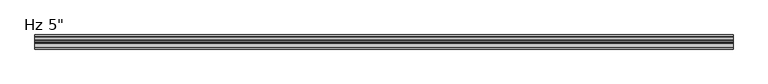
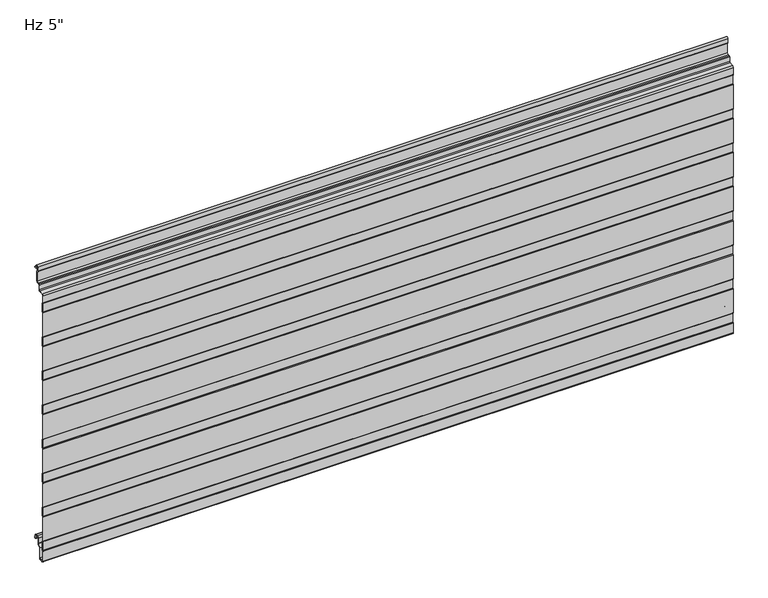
"""IFC4 building model written with IfcOpenShell, lengths in millimetres: plate geometry."""

from ifc_helpers import new_model, si_unit, point, frame, frame_2d, origin, place, context, project, spatial, polyline, circle_curve, trimmed, segment, composite_curve, outline, extrude, source, transform, mapped, element, save


def plate_4f22e56c(model_context):
    return source(origin(), model_context, "Body", "SweptSolid", [
        extrude(outline(composite_curve([segment(trimmed(circle_curve(frame_2d((-125.5998717, -10.6415934)), 1.3998661), [point((-126.9997378, -10.6415934))], [point((-126.5324955, -9.5976403))], False, "CARTESIAN"), True, "CONTINUOUS"), segment(polyline([(-126.5324955, -9.5976403), (-125.7997693, -8.8649141), (-125.7997693, 10.0260713), (-126.5327349, 10.7590369)]), True, "CONTINUOUS"), segment(trimmed(circle_curve(frame_2d((-125.6000237, 11.8030877)), 1.3999972), [point((-126.5327349, 10.7590369))], [point((-127.0, 11.810741))], False, "CARTESIAN"), True, "CONTINUOUS"), segment(polyline([(-127.0, 11.810741), (-127.0, 65.5582542)]), True, "CONTINUOUS"), segment(trimmed(circle_curve(frame_2d((-125.6000028, 65.5582542)), 1.3999972), [point((-127.0, 65.5582542))], [point((-126.532714, 66.602305))], False, "CARTESIAN"), True, "CONTINUOUS"), segment(polyline([(-126.532714, 66.602305), (-125.7997693, 67.3352497), (-125.7997693, 86.2259189), (-126.5327349, 86.9588845)]), True, "CONTINUOUS"), segment(trimmed(circle_curve(frame_2d((-125.6000237, 88.0029353)), 1.3999972), [point((-126.5327349, 86.9588845))], [point((-127.0, 88.0105886))], False, "CARTESIAN"), True, "CONTINUOUS"), segment(polyline([(-127.0, 88.0105886), (-127.0, 141.7581018)]), True, "CONTINUOUS"), segment(trimmed(circle_curve(frame_2d((-125.6000028, 141.7581018)), 1.3999972), [point((-127.0, 141.7581018))], [point((-126.532714, 142.8021526))], False, "CARTESIAN"), True, "CONTINUOUS"), segment(polyline([(-126.532714, 142.8021526), (-125.7997693, 143.5350973), (-125.7997693, 162.4257665), (-126.5327349, 163.1587321)]), True, "CONTINUOUS"), segment(trimmed(circle_curve(frame_2d((-125.6000237, 164.2027829)), 1.3999972), [point((-126.5327349, 163.1587321))], [point((-127.0, 164.2104362))], False, "CARTESIAN"), True, "CONTINUOUS"), segment(polyline([(-127.0, 164.2104362), (-127.0, 217.9579494)]), True, "CONTINUOUS"), segment(trimmed(circle_curve(frame_2d((-125.6000028, 217.9579494)), 1.3999972), [point((-127.0, 217.9579494))], [point((-126.532714, 219.0020002))], False, "CARTESIAN"), True, "CONTINUOUS"), segment(polyline([(-126.532714, 219.0020002), (-125.7997693, 219.7349449), (-125.7997693, 238.6256141), (-126.5327349, 239.3585797)]), True, "CONTINUOUS"), segment(trimmed(circle_curve(frame_2d((-125.6000237, 240.4026305)), 1.3999972), [point((-126.5327349, 239.3585797))], [point((-127.0, 240.4102838))], False, "CARTESIAN"), True, "CONTINUOUS"), segment(polyline([(-127.0, 240.4102838), (-127.0, 294.157797)]), True, "CONTINUOUS"), segment(trimmed(circle_curve(frame_2d((-125.6000028, 294.157797)), 1.3999972), [point((-127.0, 294.157797))], [point((-126.532714, 295.2018478))], False, "CARTESIAN"), True, "CONTINUOUS"), segment(polyline([(-126.532714, 295.2018478), (-125.7997693, 295.9347925), (-125.7997693, 314.8254617), (-126.5327349, 315.5584273)]), True, "CONTINUOUS"), segment(trimmed(circle_curve(frame_2d((-125.6000237, 316.6024781)), 1.3999972), [point((-126.5327349, 315.5584273))], [point((-127.0, 316.6101314))], False, "CARTESIAN"), True, "CONTINUOUS"), segment(polyline([(-127.0, 316.6101314), (-127.0, 370.3576446)]), True, "CONTINUOUS"), segment(trimmed(circle_curve(frame_2d((-125.6000028, 370.3576446)), 1.3999972), [point((-127.0, 370.3576446))], [point((-126.532714, 371.4016954))], False, "CARTESIAN"), True, "CONTINUOUS"), segment(polyline([(-126.532714, 371.4016954), (-125.7997693, 372.1346401), (-125.7997693, 391.0253093), (-126.5327349, 391.7582749)]), True, "CONTINUOUS"), segment(trimmed(circle_curve(frame_2d((-125.6000237, 392.8023257)), 1.3999972), [point((-126.5327349, 391.7582749))], [point((-127.0, 392.809979))], False, "CARTESIAN"), True, "CONTINUOUS"), segment(polyline([(-127.0, 392.809979), (-127.0, 446.5574922)]), True, "CONTINUOUS"), segment(trimmed(circle_curve(frame_2d((-125.6000028, 446.5574922)), 1.3999972), [point((-127.0, 446.5574922))], [point((-126.532714, 447.601543))], False, "CARTESIAN"), True, "CONTINUOUS"), segment(polyline([(-126.532714, 447.601543), (-125.7997693, 448.3344877), (-125.7997693, 467.2251569), (-126.5327349, 467.9581225)]), True, "CONTINUOUS"), segment(trimmed(circle_curve(frame_2d((-125.6000237, 469.0021733)), 1.3999972), [point((-126.5327349, 467.9581225))], [point((-127.0, 469.0098266))], False, "CARTESIAN"), True, "CONTINUOUS"), segment(polyline([(-127.0, 469.0098266), (-127.0, 522.7573398)]), True, "CONTINUOUS"), segment(trimmed(circle_curve(frame_2d((-125.6000028, 522.7573398)), 1.3999972), [point((-127.0, 522.7573398))], [point((-126.532714, 523.8013906))], False, "CARTESIAN"), True, "CONTINUOUS"), segment(polyline([(-126.532714, 523.8013906), (-125.7997693, 524.5343353), (-125.7997693, 543.4250045), (-126.5327349, 544.1579701)]), True, "CONTINUOUS"), segment(trimmed(circle_curve(frame_2d((-125.6000237, 545.2020209)), 1.3999972), [point((-126.5327349, 544.1579701))], [point((-126.9990984, 545.2528361))], False, "CARTESIAN"), True, "CONTINUOUS"), segment(polyline([(-126.9990984, 545.2528361), (-126.9990984, 561.1384359)]), True, "CONTINUOUS"), segment(trimmed(circle_curve(frame_2d((-124.0491043, 561.1384359)), 2.9499941), [point((-126.9990984, 561.1384359))], [point((-124.3062132, 564.0772044))], False, "CARTESIAN"), True, "CONTINUOUS"), segment(polyline([(-124.3062132, 564.0772044), (-115.8419168, 564.8177344)]), True, "CONTINUOUS"), segment(trimmed(circle_curve(frame_2d((-116.0188426, 566.8400056)), 2.0299959), [point((-115.8419168, 564.8177344))], [point((-113.9914567, 566.9429135))], True, "CARTESIAN"), True, "CONTINUOUS"), segment(polyline([(-113.9914567, 566.9429135), (-113.9914567, 577.0595941)]), True, "CONTINUOUS"), segment(trimmed(circle_curve(frame_2d((-112.0423033, 577.0595941)), 1.9491534), [point((-113.9914567, 577.0595941))], [point((-112.0423033, 579.0087475))], False, "CARTESIAN"), True, "CONTINUOUS"), segment(polyline([(-112.0423033, 579.0087475), (-108.9009036, 579.0087475)]), True, "CONTINUOUS"), segment(trimmed(circle_curve(frame_2d((-108.9009036, 582.0087415)), 2.999994), [point((-108.9009036, 579.0087475))], [point((-105.9009096, 582.0087415))], True, "CARTESIAN"), True, "CONTINUOUS"), segment(polyline([(-105.9009096, 582.0087415), (-105.9009096, 602.6122013), (-107.1467537, 603.3314897)]), True, "CONTINUOUS"), segment(trimmed(circle_curve(frame_2d((-106.4217552, 604.587224)), 1.4499971), [point((-107.1467537, 603.3314897))], [point((-107.8709833, 604.6344401))], False, "CARTESIAN"), True, "CONTINUOUS"), segment(polyline([(-107.8709833, 604.6344401), (-107.526075, 613.3463704)]), True, "CONTINUOUS"), segment(trimmed(circle_curve(frame_2d((-104.4266291, 613.2236622)), 3.1018739), [point((-107.526075, 613.3463704))], [point((-101.3275082, 613.3543204))], False, "CARTESIAN"), True, "CONTINUOUS"), segment(polyline([(-101.3275082, 613.3543204), (-101.0837214, 609.3587)]), True, "CONTINUOUS"), segment(trimmed(circle_curve(frame_2d((-100.2434917, 609.4099653)), 0.8417922), [point((-101.0837214, 609.3587))], [point((-100.2729389, 608.5686884))], True, "CARTESIAN"), True, "CONTINUOUS"), segment(polyline([(-100.2729389, 608.5686884), (-97.5025061, 608.5686884), (-97.5025061, 607.5686884), (-100.2870527, 607.5686884)]), True, "CONTINUOUS"), segment(trimmed(circle_curve(frame_2d((-100.2434917, 609.4099653)), 1.8417922), [point((-100.2870527, 607.5686884))], [point((-102.0818653, 609.2977997))], False, "CARTESIAN"), True, "CONTINUOUS"), segment(polyline([(-102.0818653, 609.2977997), (-102.3262802, 613.3037148)]), True, "CONTINUOUS"), segment(trimmed(circle_curve(frame_2d((-104.4266291, 613.2236622)), 2.1018739), [point((-102.3262802, 613.3037148))], [point((-106.5268578, 613.306811))], True, "CARTESIAN"), True, "CONTINUOUS"), segment(polyline([(-106.5268578, 613.306811), (-106.8821181, 604.3334028), (-104.9009096, 603.1895515), (-104.9009096, 582.0087415)]), True, "CONTINUOUS"), segment(trimmed(circle_curve(frame_2d((-108.9009036, 582.0087415)), 3.999994), [point((-104.9009096, 582.0087415))], [point((-108.9009036, 578.0087475))], False, "CARTESIAN"), True, "CONTINUOUS"), segment(polyline([(-108.9009036, 578.0087475), (-112.0423033, 578.0087475)]), True, "CONTINUOUS"), segment(trimmed(circle_curve(frame_2d((-112.0423033, 577.0595941)), 0.9491534), [point((-112.0423033, 578.0087475))], [point((-112.9914567, 577.0595941))], True, "CARTESIAN"), True, "CONTINUOUS"), segment(polyline([(-112.9914567, 577.0595941), (-112.9914567, 566.9657441)]), True, "CONTINUOUS"), segment(trimmed(circle_curve(frame_2d((-116.0188426, 566.8400056)), 3.0299959), [point((-112.9914567, 566.9657441))], [point((-115.754761, 563.8215397))], False, "CARTESIAN"), True, "CONTINUOUS"), segment(polyline([(-115.754761, 563.8215397), (-124.2190575, 563.0810097)]), True, "CONTINUOUS"), segment(trimmed(circle_curve(frame_2d((-124.0491043, 561.1384359)), 1.9499941), [point((-124.2190575, 563.0810097))], [point((-125.9990984, 561.1384359))], True, "CARTESIAN"), True, "CONTINUOUS"), segment(polyline([(-125.9990984, 561.1384359), (-125.9990984, 545.0396538), (-124.7997693, 543.8403247), (-124.7997693, 524.1209122), (-126.0, 522.9206815), (-126.0, 468.8405497), (-124.7997693, 467.640319), (-124.7997693, 447.9209065), (-126.0, 446.7206758), (-126.0, 392.640544), (-124.7997693, 391.4403133), (-124.7997693, 371.7209008), (-126.0, 370.5206701), (-126.0, 316.4405383), (-124.7997693, 315.2403076), (-124.7997693, 295.5208951), (-126.0, 294.3206644), (-126.0, 240.2405326), (-124.7997693, 239.0403019), (-124.7997693, 219.3208894), (-126.0, 218.1206587), (-126.0, 164.0405269), (-124.7997693, 162.8402962), (-124.7997693, 143.1208837), (-126.0, 141.920653), (-126.0, 87.8405213), (-124.7997693, 86.6402905), (-124.7997693, 66.920878), (-126.0, 65.7206473), (-126.0, 11.6405156), (-124.7997693, 10.4402849), (-124.7997693, -9.2791277), (-125.9997378, -10.4790962), (-125.9997378, -32.4521176)]), True, "CONTINUOUS"), segment(trimmed(circle_curve(frame_2d((-123.4294985, -32.4521176)), 2.5702393), [point((-125.9997378, -32.4521176))], [point((-123.2054129, -35.0125699))], True, "CARTESIAN"), True, "CONTINUOUS"), segment(polyline([(-123.2054129, -35.0125699), (-118.223592, -34.5765709)]), True, "CONTINUOUS"), segment(trimmed(circle_curve(frame_2d((-118.7049826, -31.9198392)), 2.6999926), [point((-118.223592, -34.5765709))], [point((-116.00499, -31.9198392))], True, "CARTESIAN"), True, "CONTINUOUS"), segment(polyline([(-116.00499, -31.9198392), (-116.00499, -9.8247096), (-110.5029189, -4.3226385)]), True, "CONTINUOUS"), segment(trimmed(circle_curve(frame_2d((-111.7049966, -3.1205608)), 1.6999946), [point((-110.5029189, -4.3226385))], [point((-110.005002, -3.1205608))], True, "CARTESIAN"), True, "CONTINUOUS"), segment(polyline([(-110.005002, -3.1205608), (-110.005002, 8.6903283)]), True, "CONTINUOUS"), segment(trimmed(circle_curve(frame_2d((-106.6550067, 8.6903283)), 3.3499953), [point((-110.005002, 8.6903283))], [point((-106.6550067, 12.0403236))], False, "CARTESIAN"), True, "CONTINUOUS"), segment(polyline([(-106.6550067, 12.0403236), (-102.2550155, 12.0403236)]), True, "CONTINUOUS"), segment(trimmed(circle_curve(frame_2d((-102.2550155, 8.6903283)), 3.3499953), [point((-102.2550155, 12.0403236))], [point((-98.9050202, 8.6903283))], False, "CARTESIAN"), True, "CONTINUOUS"), segment(polyline([(-98.9050202, 8.6903283), (-98.9050202, 5.9912173), (-97.5065413, 5.9912173), (-97.5065413, 2.2328239)]), True, "CONTINUOUS"), segment(trimmed(circle_curve(frame_2d((-98.706538, 2.2313092)), 1.1999976), [point((-97.5065413, 2.2328239))], [point((-98.6760161, 1.0316999))], False, "CARTESIAN"), True, "CONTINUOUS"), segment(trimmed(circle_curve(frame_2d((-98.706538, 2.2313092)), 1.1999976), [point((-98.6760161, 1.0316999))], [point((-99.9050202, 2.1710221))], False, "CARTESIAN"), True, "CONTINUOUS"), segment(polyline([(-99.9050202, 2.1710221), (-99.9050202, 8.6903283)]), True, "CONTINUOUS"), segment(trimmed(circle_curve(frame_2d((-102.2550155, 8.6903283)), 2.3499953), [point((-99.9050202, 8.6903283))], [point((-102.2550155, 11.0403236))], True, "CARTESIAN"), True, "CONTINUOUS"), segment(polyline([(-102.2550155, 11.0403236), (-106.6550067, 11.0403236)]), True, "CONTINUOUS"), segment(trimmed(circle_curve(frame_2d((-106.6550067, 8.6903283)), 2.3499953), [point((-106.6550067, 11.0403236))], [point((-109.005002, 8.6903283))], True, "CARTESIAN"), True, "CONTINUOUS"), segment(polyline([(-109.005002, 8.6903283), (-109.005002, -3.1205608)]), True, "CONTINUOUS"), segment(trimmed(circle_curve(frame_2d((-111.7049966, -3.1205608)), 2.6999946), [point((-109.005002, -3.1205608))], [point((-109.7958121, -5.0297453))], False, "CARTESIAN"), True, "CONTINUOUS"), segment(polyline([(-109.7958121, -5.0297453), (-114.6242296, -9.8581627)]), True, "CONTINUOUS"), segment(trimmed(circle_curve(frame_2d((-113.7049926, -10.7773997)), 1.2999974), [point((-114.6242296, -9.8581627))], [point((-115.00499, -10.7773997))], True, "CARTESIAN"), True, "CONTINUOUS"), segment(polyline([(-115.00499, -10.7773997), (-115.00499, -31.9198392)]), True, "CONTINUOUS"), segment(trimmed(circle_curve(frame_2d((-118.7049826, -31.9198392)), 3.6999926), [point((-115.00499, -31.9198392))], [point((-118.0941815, -35.5690675))], False, "CARTESIAN"), True, "CONTINUOUS"), segment(polyline([(-118.0941815, -35.5690675), (-123.1182281, -36.008762)]), True, "CONTINUOUS"), segment(trimmed(circle_curve(frame_2d((-123.4294985, -32.4521176)), 3.5702393), [point((-123.1182281, -36.008762))], [point((-126.9997378, -32.4521176))], False, "CARTESIAN"), True, "CONTINUOUS"), segment(polyline([(-126.9997378, -32.4521176), (-126.9997378, -10.6415934)]), True, "CONTINUOUS")], self_intersect=False)), frame((-730.0, 0.0, 0.0), z_axis=(1.0, 0.0, 0.0), x_axis=(0.0, 1.0, 0.0)), (0.0, 0.0, 1.0), 1460.0),
    ])


if __name__ == "__main__":
    model = new_model("IFC4")
    model_context = context("Model", 3, world=origin())
    ifc_project = project(units=[si_unit("LENGTHUNIT", "METRE", prefix="MILLI")], contexts=[model_context])
    site = spatial("IfcSite", under=ifc_project)
    building = spatial("IfcBuilding", under=site)
    placement = place(None, origin())
    plate_shape = plate_4f22e56c(model_context)
    element("IfcPlate", 1, ObjectType="KIP-24-Karrier-KP-R19-CP-Hz-SL3-8in_SL : Hz 5\"", at=placement, inside=building, context=model_context, shape_type="MappedRepresentation", body=[
        mapped(plate_shape, transform((0.0, 0.0, 0.0), x_axis=(1.0, 0.0, 0.0), y_axis=(0.0, 1.0, 0.0), z_axis=(0.0, 0.0, 1.0))),
    ])
    save(model, "model.ifc")
